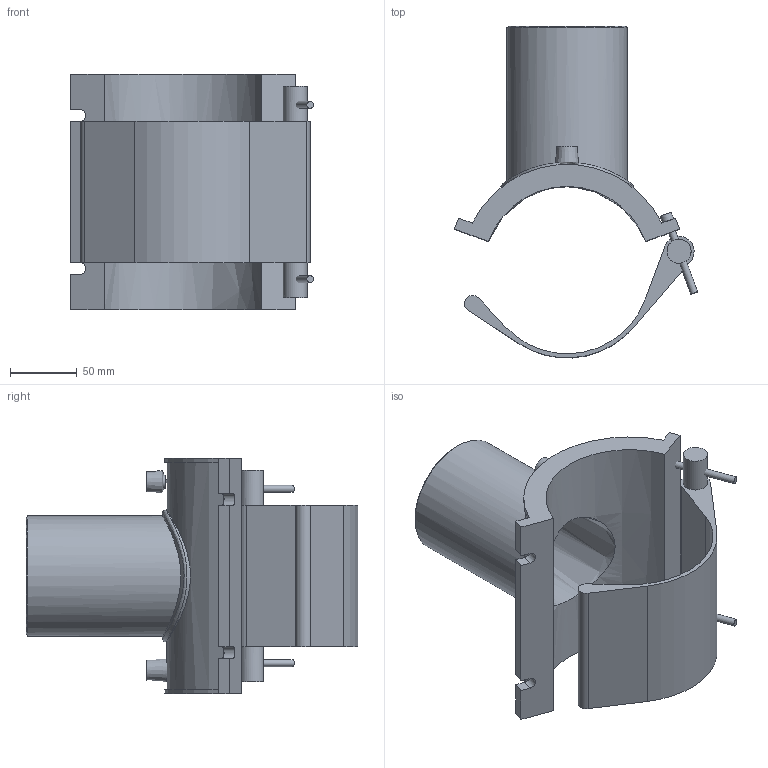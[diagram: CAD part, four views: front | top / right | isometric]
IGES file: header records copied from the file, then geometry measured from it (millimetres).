
Global section: file name: 495804125090.ipt; native system: Autodesk Inventor 2015; preprocessor: unknown; author: KIM; date: 20180426.120843; units: millimetre
Bounding box: 181.62 x 248 x 176 mm (x, y, z)
Volume: 874983.4 mm3; surface area: 192418.8 mm2
Topology: 5 solids, 5 shells, 65 faces, 135 edges, 91 vertices
Faces by surface type: plane 37, cylinder 17, revolution 7, cone 3, bspline 1
Full cylindrical faces by diameter (mm): 4 x2, 5.25 x2, 8.75 x2, 18 x2, 90 x1, 99 x1
